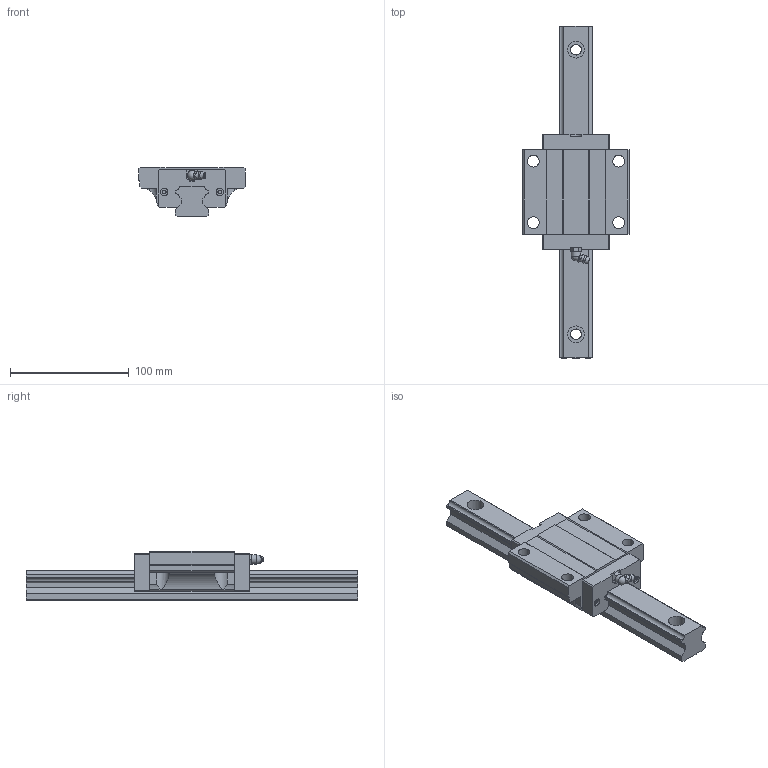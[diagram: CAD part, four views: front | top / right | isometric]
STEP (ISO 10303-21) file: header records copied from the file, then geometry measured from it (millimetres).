
FILE_DESCRIPTION(/* description */ (''),/* implementation_level */ '2;1');
FILE_NAME(/* name */ 'MSA30A',/* time_stamp */ '2003-12-29T13:06:06+08:00',/* author */ (''),/* organization */ (''),/* preprocessor_version */ 'ST-DEVELOPER v9',/* originating_system */ '',/* authorisation */ '');
FILE_SCHEMA (('CONFIG_CONTROL_DESIGN'));
Length unit declared in the file: millimetre
Products named in the file (1): zirc5932mwh2
Bounding box: 90 x 280 x 42 mm (x, y, z)
Volume: 345345.8 mm3; surface area: 68507.6 mm2
Topology: 3 solids, 3 shells, 202 faces, 549 edges, 362 vertices
Faces by surface type: plane 146, cylinder 45, torus 7, sphere 2, cone 1, bspline 1
Full cylindrical faces by diameter (mm): 3.25 x4, 6.5 x5, 8 x1, 9 x4, 10 x4, 14 x4
Entity records: 6420 total; most frequent: CARTESIAN_POINT 1278, ORIENTED_EDGE 1032, DIRECTION 1025, EDGE_CURVE 516, LINE 359, VECTOR 359, VERTEX_POINT 356, AXIS2_PLACEMENT_3D 333
